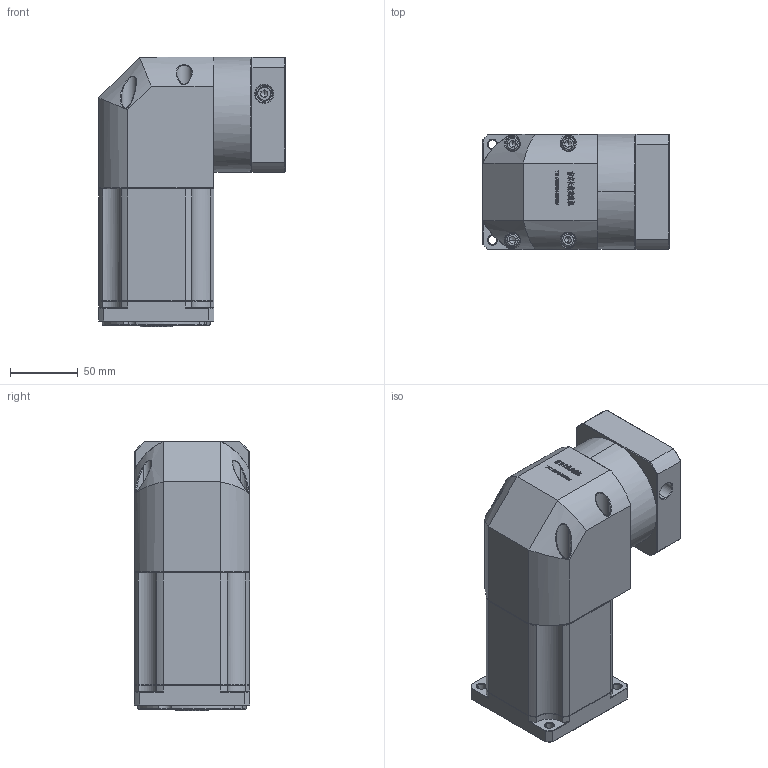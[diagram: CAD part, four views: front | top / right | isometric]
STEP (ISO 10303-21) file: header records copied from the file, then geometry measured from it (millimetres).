
FILE_DESCRIPTION (( 'STEP AP214' ), '1' );
FILE_NAME ('ZBR90-K15-L3-19-70-90-M5.STEP', '2022-05-07T14:55:21', ( '' ), ( 'Microsoft' ), 'SwSTEP 2.0', 'SolidWorks 2016', '' );
FILE_SCHEMA (( 'AUTOMOTIVE_DESIGN' ));
Length unit declared in the file: millimetre
Products named in the file (1): ZBR90-K15-L3-19-70-90-M5
Bounding box: 137.6 x 85 x 199 mm (x, y, z)
Volume: 1474694.5 mm3; surface area: 142769.7 mm2
Topology: 5 solids, 5 shells, 2944 faces, 7800 edges, 4989 vertices
Faces by surface type: plane 1570, bspline 596, cylinder 409, cone 345, torus 24
Entity records: 157499 total; most frequent: CARTESIAN_POINT 56755, ORIENTED_EDGE 15528, DIRECTION 11869, EDGE_CURVE 7764, VECTOR 5225, LINE 5225, VERTEX_POINT 4989, AXIS2_PLACEMENT_3D 3322
